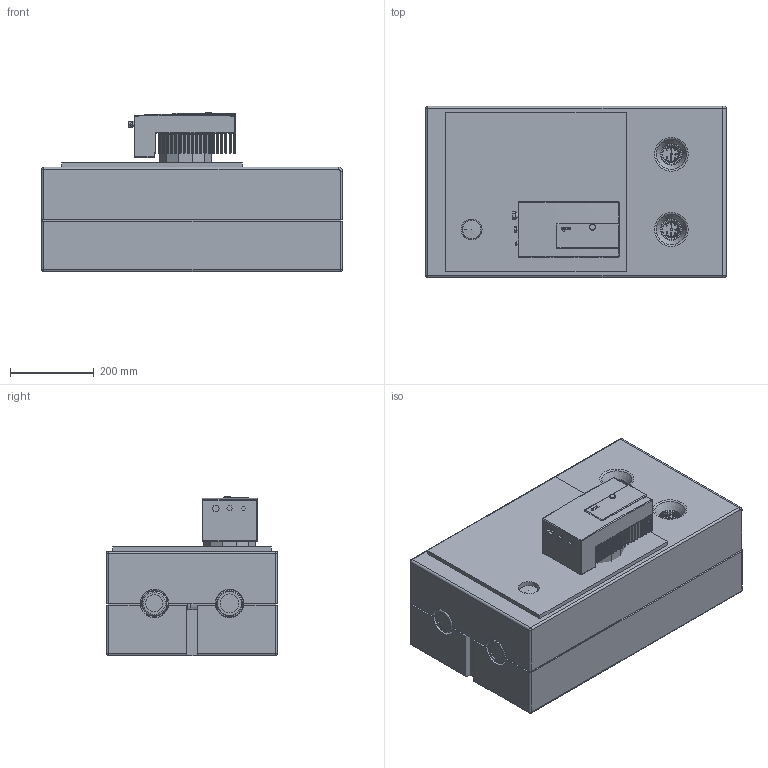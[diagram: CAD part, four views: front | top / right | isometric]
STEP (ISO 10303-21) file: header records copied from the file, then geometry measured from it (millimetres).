
FILE_DESCRIPTION((''),'2;1');
FILE_NAME('C:\Users\Moreuih\Desktop\HKM DN50 10026526 (Wilo)\10026526 - HKM DN50 (Stratos PARA50 1-9).stp','2016-09-02T08:30:35',('Moreuih'),(''),'Autodesk Inventor 2013','Autodesk Inventor 2013','');
FILE_SCHEMA(('AUTOMOTIVE_DESIGN { 1 0 10303 214 1 1 1 1 }'));
Length unit declared in the file: millimetre
Products named in the file (6): 10026526-HKM DN50 (Stratos PARA 50 1-9); insulation back; Pumpe Stratos PARA 50 1-9; Stellmotor ESBE; insulation Front; hydr HKM DN50
Assembly tree (5 placements, depth 2):
  10026526-HKM DN50 (Stratos PARA 50 1-9)
    insulation back
    Pumpe Stratos PARA 50 1-9
    Stellmotor ESBE
    insulation Front
    hydr HKM DN50
Bounding box: 720 x 410 x 381 mm (x, y, z)
Volume: 52610149.1 mm3; surface area: 3288972 mm2
Topology: 6 solids, 8 shells, 4849 faces, 12262 edges, 7725 vertices
Faces by surface type: plane 2501, cylinder 897, bspline 851, cone 280, torus 175, sphere 145
Full cylindrical faces by diameter (mm): 2 x2, 2.601 x2, 3 x2, 5 x4, 5.1 x2, 6.2 x2, 7 x1, 8 x2, 8.2 x2, 9 x2, 10 x4, 11 x2, 11.445 x4, 11.7 x2, 12 x18, 13 x16, 13.16 x2, 13.5 x3, 13.8 x4, 14 x8, 15 x1, 16.63 x8, 17 x6, 19 x2, 20 x16, 21.8 x2, 25.5 x1, 41 x1, 45 x1, 46 x4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
Entity records: 174888 total; most frequent: CARTESIAN_POINT 62306, ORIENTED_EDGE 23440, DIRECTION 20127, EDGE_CURVE 11720, VERTEX_POINT 7616, AXIS2_PLACEMENT_3D 6712, VECTOR 6703, LINE 6703
